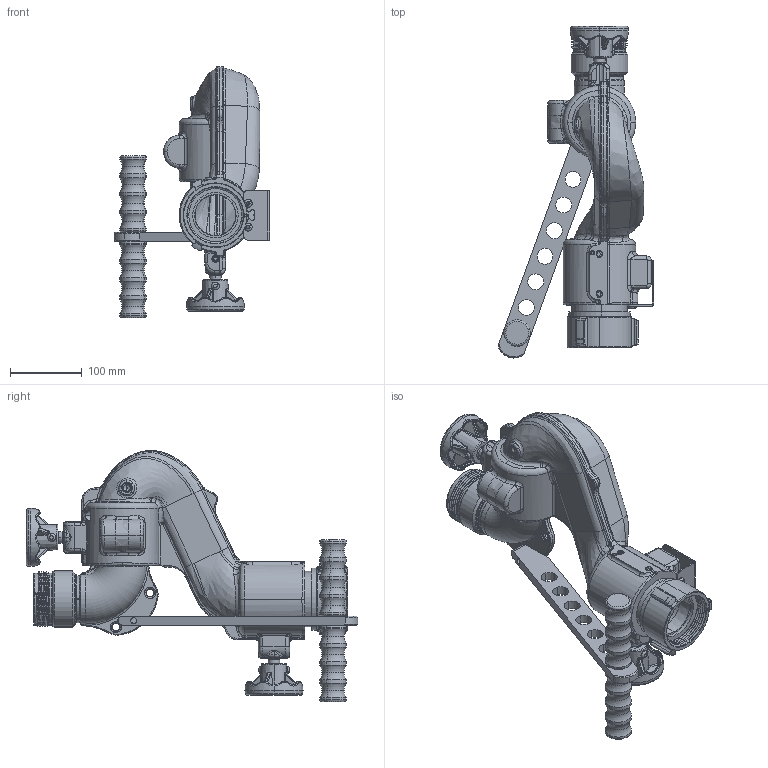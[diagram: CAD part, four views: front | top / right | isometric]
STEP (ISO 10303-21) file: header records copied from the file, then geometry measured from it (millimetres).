
FILE_DESCRIPTION (( 'STEP AP203' ), '1' );
FILE_NAME ('Y2-T11A_Vertical.STEP', '2014-07-03T15:47:46', ( '' ), ( '' ), 'SwSTEP 2.0', 'SolidWorks 2014', '' );
FILE_SCHEMA (( 'CONFIG_CONTROL_DESIGN' ));
Length unit declared in the file: inch
Products named in the file (1): Y2-T11A_Vertical
Bounding box: 217.86 x 463.74 x 350.87 mm (x, y, z)
Surface area: 409240.7 mm2 (no closed solid volume)
Topology: 0 solids, 35 shells, 1485 faces, 4121 edges, 2579 vertices
Faces by surface type: bspline 453, cylinder 397, plane 259, torus 204, cone 150, sphere 22
Entity records: 102923 total; most frequent: CARTESIAN_POINT 69401, ORIENTED_EDGE 7331, DIRECTION 6224, EDGE_CURVE 4094, VERTEX_POINT 2573, AXIS2_PLACEMENT_3D 2510, EDGE_LOOP 1564, ADVANCED_FACE 1485
